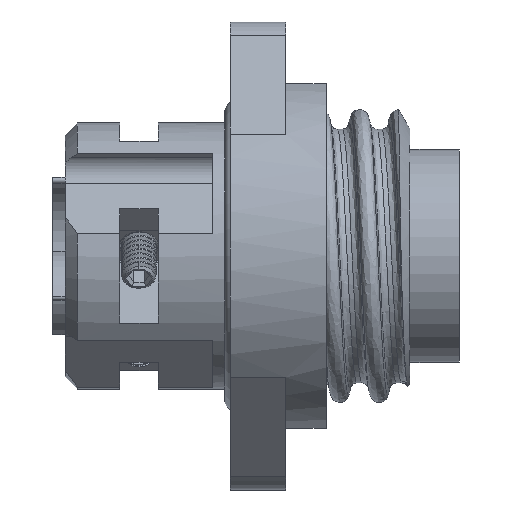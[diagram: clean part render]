
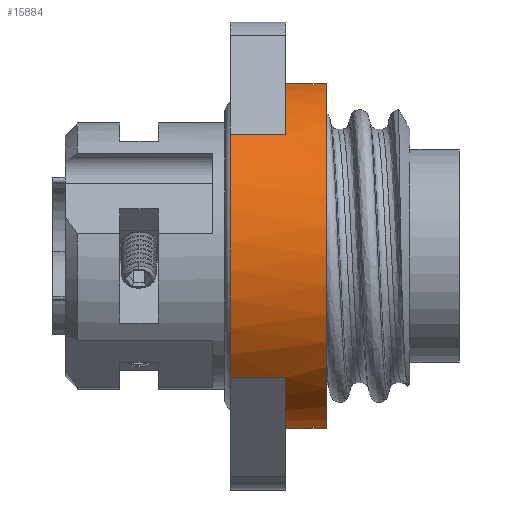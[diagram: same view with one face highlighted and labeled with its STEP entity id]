
A CAD part, top view. The second image highlights one B-rep face of the part: STEP entity #15884.
In plain terms, the highlighted cylindrical face has radius 14.25 mm (diameter 28.5 mm), a partial arc.
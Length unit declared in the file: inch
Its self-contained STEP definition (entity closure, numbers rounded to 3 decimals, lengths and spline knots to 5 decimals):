
#165=CARTESIAN_POINT('',(0.,0.,0.));
#166=DIRECTION('',(-1.,0.,0.));
#167=DIRECTION('',(0.,-0.982,0.189));
#168=AXIS2_PLACEMENT_3D('',#165,#166,#167);
#239=DIRECTION('',(1.,0.,0.));
#240=VECTOR('',#239,0.12992);
#241=CARTESIAN_POINT('',(-0.12992,0.55091,
0.10603));
#242=LINE('',#241,#240);
#243=DIRECTION('',(1.,0.,0.));
#244=VECTOR('',#243,0.12992);
#245=CARTESIAN_POINT('',(-0.12992,-0.55091,
0.10603));
#246=LINE('',#245,#244);
#259=CARTESIAN_POINT('',(-0.12992,0.,0.));
#260=DIRECTION('',(1.,0.,0.));
#261=DIRECTION('',(0.,-0.694,0.72));
#262=AXIS2_PLACEMENT_3D('',#259,#260,#261);
#317=CARTESIAN_POINT('',(-0.30709,0.,0.));
#318=DIRECTION('',(1.,0.,0.));
#319=DIRECTION('',(0.,0.694,0.72));
#320=AXIS2_PLACEMENT_3D('',#317,#318,#319);
#388=DIRECTION('',(1.,0.,0.));
#389=VECTOR('',#388,0.17717);
#390=CARTESIAN_POINT('',(-0.30709,-0.3891,
0.40417));
#391=LINE('',#390,#389);
#417=CARTESIAN_POINT('',(-0.12992,0.,0.));
#418=DIRECTION('',(1.,0.,0.));
#419=DIRECTION('',(0.,0.982,0.189));
#420=AXIS2_PLACEMENT_3D('',#417,#418,#419);
#445=DIRECTION('',(-1.,0.,0.));
#446=VECTOR('',#445,0.17717);
#447=CARTESIAN_POINT('',(-0.12992,0.3891,
0.40417));
#448=LINE('',#447,#446);
#13129=CARTESIAN_POINT('',(0.,-0.55091,0.10603));
#13130=VERTEX_POINT('',#13129);
#13131=CARTESIAN_POINT('',(0.,0.55091,0.10603));
#13133=VERTEX_POINT('',#13131);
#13159=CARTESIAN_POINT('',(-0.12992,-0.55091,
0.10603));
#13160=VERTEX_POINT('',#13159);
#13161=CARTESIAN_POINT('',(-0.12992,-0.3891,
0.40417));
#13162=VERTEX_POINT('',#13161);
#13163=CARTESIAN_POINT('',(-0.30709,-0.3891,
0.40417));
#13164=VERTEX_POINT('',#13163);
#13165=CARTESIAN_POINT('',(-0.12992,0.3891,
0.40417));
#13166=CARTESIAN_POINT('',(-0.30709,0.3891,
0.40417));
#13167=VERTEX_POINT('',#13165);
#13168=VERTEX_POINT('',#13166);
#13169=CARTESIAN_POINT('',(-0.12992,0.55091,
0.10603));
#13170=VERTEX_POINT('',#13169);
#15863=CARTESIAN_POINT('',(-0.31323,0.,0.));
#15864=DIRECTION('',(1.,0.,0.));
#15865=DIRECTION('',(0.,-1.,0.));
#15866=AXIS2_PLACEMENT_3D('',#15863,#15864,#15865);
#15867=CYLINDRICAL_SURFACE('',#15866,0.56102);
#15869=ORIENTED_EDGE('',*,*,#15868,.F.);
#15871=ORIENTED_EDGE('',*,*,#15870,.F.);
#15873=ORIENTED_EDGE('',*,*,#15872,.F.);
#15875=ORIENTED_EDGE('',*,*,#15874,.F.);
#15877=ORIENTED_EDGE('',*,*,#15876,.F.);
#15879=ORIENTED_EDGE('',*,*,#15878,.F.);
#15880=ORIENTED_EDGE('',*,*,#15855,.T.);
#15881=ORIENTED_EDGE('',*,*,#15759,.F.);
#15882=EDGE_LOOP('',(#15869,#15871,#15873,#15875,#15877,#15879,#15880,#15881));
#15883=FACE_OUTER_BOUND('',#15882,.F.);
#169=CIRCLE('',#168,0.56102);
#263=CIRCLE('',#262,0.56102);
#321=CIRCLE('',#320,0.56102);
#421=CIRCLE('',#420,0.56102);
#15759=EDGE_CURVE('',#13130,#13133,#169,.T.);
#15855=EDGE_CURVE('',#13170,#13133,#242,.T.);
#15868=EDGE_CURVE('',#13160,#13130,#246,.T.);
#15870=EDGE_CURVE('',#13162,#13160,#263,.T.);
#15872=EDGE_CURVE('',#13164,#13162,#391,.T.);
#15874=EDGE_CURVE('',#13168,#13164,#321,.T.);
#15876=EDGE_CURVE('',#13167,#13168,#448,.T.);
#15878=EDGE_CURVE('',#13170,#13167,#421,.T.);
#15884=ADVANCED_FACE('',(#15883),#15867,.T.);
